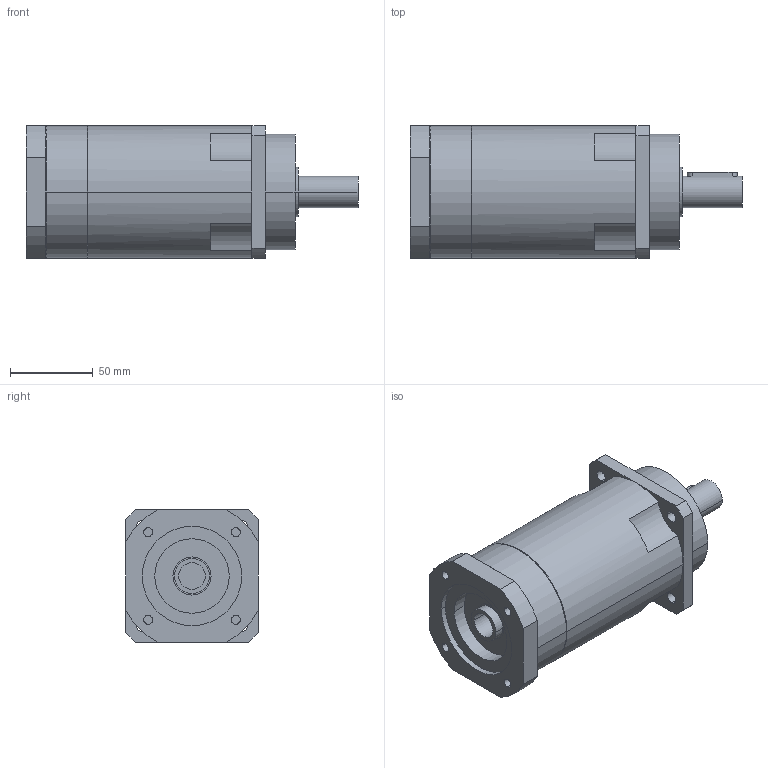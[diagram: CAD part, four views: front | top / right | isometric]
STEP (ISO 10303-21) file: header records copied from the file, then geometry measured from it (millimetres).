
FILE_DESCRIPTION(('CoCreate Modeling STEP Export'),'2;1');
FILE_NAME('GPR100_ig-48-64-80-100-120-144-180-216_19_B5_16_P03.stp','2014-08-26T11:56:03',(''),(''),'CoCreate Modeling STEP processor for AP214 (Solid Model)','CoCreate Modeling 16.00C 25-Feb-2009 (C) Parametric Technology GmbH','');
FILE_SCHEMA(('AUTOMOTIVE_DESIGN { 1 0 10303 214 1 1 1 1 }'));
Length unit declared in the file: millimetre
Products named in the file (2): GPR100_ig-48-64-80-100-120-144-180-216_19_B5_16_P03
Assembly tree (1 placements, depth 2):
  GPR100_ig-48-64-80-100-120-144-180-216_19_B5_16_P03
    GPR100_ig-48-64-80-100-120-144-180-216_19_B5_16_P03
Bounding box: 200.4 x 80 x 80 mm (x, y, z)
Volume: 786459 mm3; surface area: 64678.6 mm2
Topology: 1 solids, 1 shells, 105 faces, 299 edges, 205 vertices
Faces by surface type: cylinder 60, plane 39, cone 6
Entity records: 3145 total; most frequent: CARTESIAN_POINT 643, ORIENTED_EDGE 594, DIRECTION 436, EDGE_CURVE 297, VERTEX_POINT 205, AXIS2_PLACEMENT_3D 166, EDGE_LOOP 132, FACE_OUTER_BOUND 105
